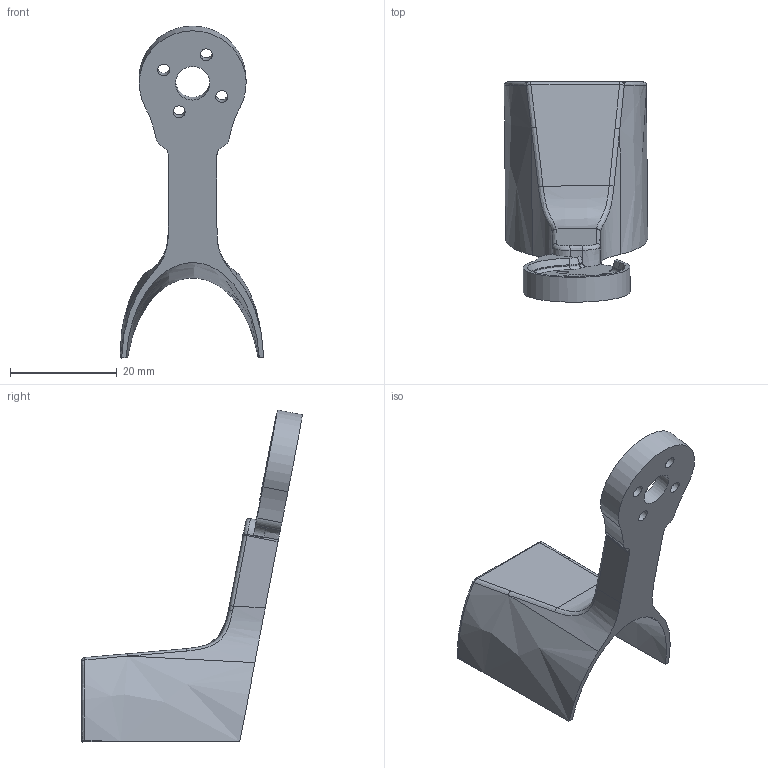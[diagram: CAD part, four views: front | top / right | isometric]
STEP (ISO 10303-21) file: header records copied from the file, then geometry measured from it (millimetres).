
FILE_DESCRIPTION(/* description */ (''),/* implementation_level */ '2;1');
FILE_NAME(/* name */ 'Engine_pylon_11dg.step',/* time_stamp */ '2026-08-15T21:22:48+03:00',/* author */ (''),/* organization */ (''),/* preprocessor_version */ 'ST-DEVELOPER v20.1',/* originating_system */ 'Autodesk Translation Framework v15.8.0.0',/* authorisation */ '');
FILE_SCHEMA (('AUTOMOTIVE_DESIGN { 1 0 10303 214 3 1 1 }'));
Length unit declared in the file: millimetre
Products named in the file (2): OptiWings; 2026-07-23-17-59-47-158
Assembly tree (1 placements, depth 2):
  OptiWings
    2026-07-23-17-59-47-158
Bounding box: 26.85 x 41.3 x 62.12 mm (x, y, z)
Volume: 5120 mm3; surface area: 4969.1 mm2
Topology: 1 solids, 1 shells, 75 faces, 188 edges, 115 vertices
Faces by surface type: bspline 39, cylinder 20, plane 14, cone 2
Full cylindrical faces by diameter (mm): 2.25 x4, 6.4 x1
Entity records: 4036 total; most frequent: CARTESIAN_POINT 2438, ORIENTED_EDGE 376, DIRECTION 224, EDGE_CURVE 188, VERTEX_POINT 115, B_SPLINE_CURVE_WITH_KNOTS 95, AXIS2_PLACEMENT_3D 92, EDGE_LOOP 85
